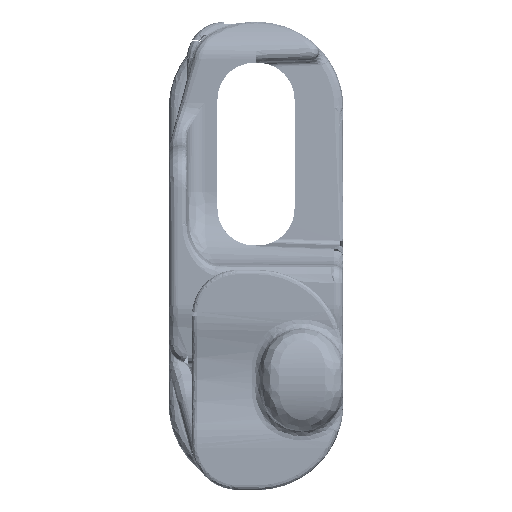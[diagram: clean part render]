
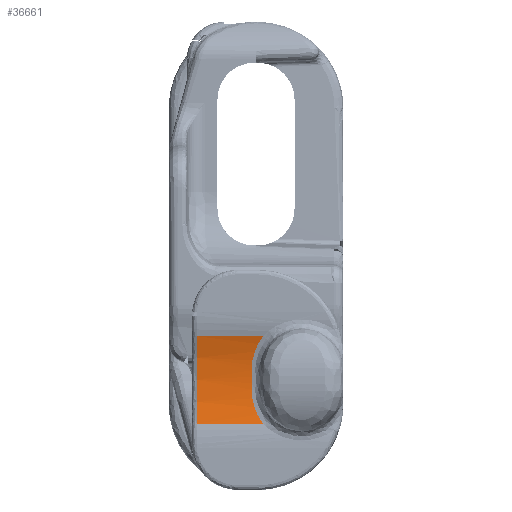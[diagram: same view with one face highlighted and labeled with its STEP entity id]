
A CAD part, left-side view. The second image highlights one B-rep face of the part: STEP entity #36661.
In plain terms, the highlighted cylindrical face has radius 18 mm (diameter 36 mm), a partial arc.
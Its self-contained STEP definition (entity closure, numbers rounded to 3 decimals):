
#23385 = CARTESIAN_POINT ( 'NONE',  ( -260.175, 194.239, 153.036 ) ) ;
#23595 = CARTESIAN_POINT ( 'NONE',  ( -260.175, 194.239, 162.571 ) ) ;
#24997 = CIRCLE ( 'NONE', #25107, 18. ) ;
#25100 = DIRECTION ( 'NONE',  ( 0.963, 0., 0.269 ) ) ;
#25103 = DIRECTION ( 'NONE',  ( 0., -1., 0. ) ) ;
#25104 = CARTESIAN_POINT ( 'NONE',  ( -277.532, 194.239, 157.804 ) ) ;
#25107 = AXIS2_PLACEMENT_3D ( 'NONE', #25104, #25103, #25100 ) ;
#25418 = CARTESIAN_POINT ( 'NONE',  ( -260.175, 186.98, 153.036 ) ) ;
#26768 = CARTESIAN_POINT ( 'NONE',  ( -259.563, 188.239, 156.745 ) ) ;
#28519 = LINE ( 'NONE', #28718, #28716 ) ;
#28617 = AXIS2_PLACEMENT_3D ( 'NONE', #28741, #28889, #28887 ) ;
#28691 = CYLINDRICAL_SURFACE ( 'NONE', #28792, 18. ) ;
#28714 = DIRECTION ( 'NONE',  ( 0., -1., 0. ) ) ;
#28716 = VECTOR ( 'NONE', #28714, 1000. ) ;
#28718 = CARTESIAN_POINT ( 'NONE',  ( -260.175, 199.194, 162.571 ) ) ;
#28726 = CIRCLE ( 'NONE', #28617, 18. ) ;
#28733 = CARTESIAN_POINT ( 'NONE',  ( -260.175, 194.239, 153.036 ) ) ;
#28736 = CARTESIAN_POINT ( 'NONE',  ( -260.175, 191.819, 153.036 ) ) ;
#28738 = CARTESIAN_POINT ( 'NONE',  ( -260.175, 189.399, 153.036 ) ) ;
#28740 = CARTESIAN_POINT ( 'NONE',  ( -260.175, 186.98, 153.036 ) ) ;
#28741 = CARTESIAN_POINT ( 'NONE',  ( -277.532, 188.239, 157.804 ) ) ;
#28747 = CARTESIAN_POINT ( 'NONE',  ( -260.175, 186.98, 153.036 ) ) ;
#28750 = CARTESIAN_POINT ( 'NONE',  ( -260.093, 187.211, 153.333 ) ) ;
#28751 = CARTESIAN_POINT ( 'NONE',  ( -260.019, 187.4, 153.634 ) ) ;
#28754 = CARTESIAN_POINT ( 'NONE',  ( -259.89, 187.706, 154.221 ) ) ;
#28757 = CARTESIAN_POINT ( 'NONE',  ( -259.835, 187.823, 154.506 ) ) ;
#28760 = CARTESIAN_POINT ( 'NONE',  ( -259.788, 187.917, 154.782 ) ) ;
#28763 = CARTESIAN_POINT ( 'NONE',  ( -259.786, 187.921, 154.794 ) ) ;
#28766 = CARTESIAN_POINT ( 'NONE',  ( -259.782, 187.928, 154.814 ) ) ;
#28770 = CARTESIAN_POINT ( 'NONE',  ( -259.777, 187.938, 154.845 ) ) ;
#28773 = CARTESIAN_POINT ( 'NONE',  ( -259.765, 187.961, 154.917 ) ) ;
#28776 = CARTESIAN_POINT ( 'NONE',  ( -259.742, 188.005, 155.06 ) ) ;
#28779 = CARTESIAN_POINT ( 'NONE',  ( -259.724, 188.039, 155.184 ) ) ;
#28781 = CARTESIAN_POINT ( 'NONE',  ( -259.688, 188.1, 155.431 ) ) ;
#28783 = CARTESIAN_POINT ( 'NONE',  ( -259.667, 188.134, 155.597 ) ) ;
#28784 = CARTESIAN_POINT ( 'NONE',  ( -259.611, 188.214, 156.092 ) ) ;
#28786 = CARTESIAN_POINT ( 'NONE',  ( -259.582, 188.239, 156.422 ) ) ;
#28788 = CARTESIAN_POINT ( 'NONE',  ( -259.563, 188.239, 156.745 ) ) ;
#28792 = AXIS2_PLACEMENT_3D ( 'NONE', #28883, #29053, #29050 ) ;
#28797 = B_SPLINE_CURVE_WITH_KNOTS ( 'NONE', 3,
 ( #28740, #28738, #28736, #28733 ),
 .UNSPECIFIED., .F., .F.,
 ( 4, 4 ),
 ( 0., 1. ),
 .UNSPECIFIED. ) ;
#28802 = CARTESIAN_POINT ( 'NONE',  ( -259.563, 188.239, 158.862 ) ) ;
#28815 = B_SPLINE_CURVE_WITH_KNOTS ( 'NONE', 3,
 ( #28788, #28786, #28784, #28783, #28781, #28779, #28776, #28773, #28770, #28766, #28763, #28760, #28757, #28754, #28751, #28750, #28747 ),
 .UNSPECIFIED., .F., .F.,
 ( 4, 2, 2, 1, 1, 1, 2, 2, 2, 4 ),
 ( 0., 0.25, 0.375, 0.437, 0.469, 0.484, 0.492, 0.5, 0.75, 1. ),
 .UNSPECIFIED. ) ;
#28883 = CARTESIAN_POINT ( 'NONE',  ( -277.532, 199.194, 157.804 ) ) ;
#28887 = DIRECTION ( 'NONE',  ( 0., 0., 1. ) ) ;
#28889 = DIRECTION ( 'NONE',  ( 0., 1., 0. ) ) ;
#28922 = FACE_OUTER_BOUND ( 'NONE', #36644, .T. ) ;
#28940 = CARTESIAN_POINT ( 'NONE',  ( -259.563, 188.239, 158.862 ) ) ;
#28942 = CARTESIAN_POINT ( 'NONE',  ( -259.601, 188.239, 159.508 ) ) ;
#28945 = CARTESIAN_POINT ( 'NONE',  ( -259.678, 188.136, 160.181 ) ) ;
#28948 = CARTESIAN_POINT ( 'NONE',  ( -259.791, 187.911, 160.844 ) ) ;
#28951 = CARTESIAN_POINT ( 'NONE',  ( -259.792, 187.909, 160.851 ) ) ;
#28954 = CARTESIAN_POINT ( 'NONE',  ( -259.795, 187.903, 160.868 ) ) ;
#28957 = CARTESIAN_POINT ( 'NONE',  ( -259.799, 187.894, 160.893 ) ) ;
#28960 = CARTESIAN_POINT ( 'NONE',  ( -259.81, 187.873, 160.952 ) ) ;
#28963 = CARTESIAN_POINT ( 'NONE',  ( -259.819, 187.854, 161.004 ) ) ;
#28966 = CARTESIAN_POINT ( 'NONE',  ( -259.838, 187.815, 161.107 ) ) ;
#28969 = CARTESIAN_POINT ( 'NONE',  ( -259.851, 187.787, 161.177 ) ) ;
#28972 = CARTESIAN_POINT ( 'NONE',  ( -259.892, 187.697, 161.389 ) ) ;
#28975 = CARTESIAN_POINT ( 'NONE',  ( -259.922, 187.629, 161.534 ) ) ;
#28978 = CARTESIAN_POINT ( 'NONE',  ( -260.019, 187.4, 161.973 ) ) ;
#28980 = CARTESIAN_POINT ( 'NONE',  ( -260.094, 187.211, 162.274 ) ) ;
#29006 = CARTESIAN_POINT ( 'NONE',  ( -260.175, 186.98, 162.571 ) ) ;
#29019 = B_SPLINE_CURVE_WITH_KNOTS ( 'NONE', 3,
 ( #29006, #28980, #28978, #28975, #28972, #28969, #28966, #28963, #28960, #28957, #28954, #28951, #28948, #28945, #28942, #28940 ),
 .UNSPECIFIED., .F., .F.,
 ( 4, 2, 2, 2, 1, 1, 2, 2, 4 ),
 ( 0., 0.25, 0.375, 0.438, 0.469, 0.484, 0.492, 0.5, 1. ),
 .UNSPECIFIED. ) ;
#29027 = CARTESIAN_POINT ( 'NONE',  ( -260.175, 186.98, 162.571 ) ) ;
#29050 = DIRECTION ( 'NONE',  ( 0., 0., 1. ) ) ;
#29053 = DIRECTION ( 'NONE',  ( 0., -1., 0. ) ) ;
#36306 = VERTEX_POINT ( 'NONE', #23385 ) ;
#36316 = VERTEX_POINT ( 'NONE', #23595 ) ;
#36434 = EDGE_CURVE ( 'NONE', #36306, #36316, #24997, .T. ) ;
#36460 = VERTEX_POINT ( 'NONE', #25418 ) ;
#36541 = ORIENTED_EDGE ( 'NONE', *, *, #36668, .F. ) ;
#36544 = ORIENTED_EDGE ( 'NONE', *, *, #36648, .F. ) ;
#36549 = VERTEX_POINT ( 'NONE', #26768 ) ;
#36623 = EDGE_CURVE ( 'NONE', #36316, #36670, #28519, .T. ) ;
#36632 = ORIENTED_EDGE ( 'NONE', *, *, #36649, .F. ) ;
#36644 = EDGE_LOOP ( 'NONE', ( #36544, #36659, #36541, #36653, #36666, #36632 ) ) ;
#36648 = EDGE_CURVE ( 'NONE', #36549, #36460, #28815, .T. ) ;
#36649 = EDGE_CURVE ( 'NONE', #36460, #36306, #28797, .T. ) ;
#36652 = VERTEX_POINT ( 'NONE', #28802 ) ;
#36653 = ORIENTED_EDGE ( 'NONE', *, *, #36623, .F. ) ;
#36658 = EDGE_CURVE ( 'NONE', #36652, #36549, #28726, .T. ) ;
#36659 = ORIENTED_EDGE ( 'NONE', *, *, #36658, .F. ) ;
#36661 = ADVANCED_FACE ( 'NONE', ( #28922 ), #28691, .F. ) ;
#36666 = ORIENTED_EDGE ( 'NONE', *, *, #36434, .F. ) ;
#36668 = EDGE_CURVE ( 'NONE', #36670, #36652, #29019, .T. ) ;
#36670 = VERTEX_POINT ( 'NONE', #29027 ) ;
